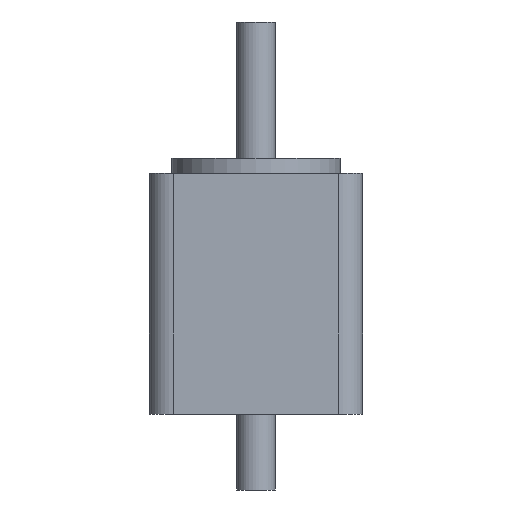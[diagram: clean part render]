
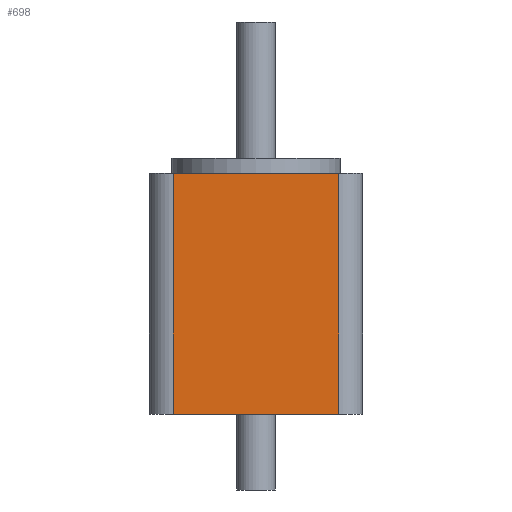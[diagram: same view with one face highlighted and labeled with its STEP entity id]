
A CAD part, front view. The second image highlights one B-rep face of the part: STEP entity #698.
In plain terms, the highlighted planar face has unit normal (0, -1, 0).
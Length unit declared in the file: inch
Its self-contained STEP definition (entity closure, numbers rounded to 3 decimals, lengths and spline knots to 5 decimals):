
#640=CARTESIAN_POINT('',(-0.425,-0.55,0.0));
#641=VERTEX_POINT('',#640);
#649=CARTESIAN_POINT('',(-0.425,-0.55,1.24));
#650=VERTEX_POINT('',#649);
#651=CARTESIAN_POINT('',(-0.425,-0.55,1.24));
#652=DIRECTION('',(0.0,0.0,-1.0));
#653=VECTOR('',#652,1.24);
#654=LINE('',#651,#653);
#655=EDGE_CURVE('',#650,#641,#654,.T.);
#668=CARTESIAN_POINT('',(-0.425,-0.55,1.24));
#669=DIRECTION('',(0.0,-1.0,0.0));
#670=DIRECTION('',(0.0,0.0,-1.0));
#671=AXIS2_PLACEMENT_3D('',#668,#669,#670);
#672=PLANE('',#671);
#673=CARTESIAN_POINT('',(0.425,-0.55,0.0));
#674=VERTEX_POINT('',#673);
#675=CARTESIAN_POINT('',(-0.425,-0.55,0.0));
#676=DIRECTION('',(1.0,0.0,0.0));
#677=VECTOR('',#676,0.85);
#678=LINE('',#675,#677);
#679=EDGE_CURVE('',#641,#674,#678,.T.);
#680=ORIENTED_EDGE('',*,*,#679,.T.);
#681=CARTESIAN_POINT('',(0.425,-0.55,1.24));
#682=VERTEX_POINT('',#681);
#683=CARTESIAN_POINT('',(0.425,-0.55,1.24));
#684=DIRECTION('',(0.0,0.0,-1.0));
#685=VECTOR('',#684,1.24);
#686=LINE('',#683,#685);
#687=EDGE_CURVE('',#682,#674,#686,.T.);
#688=ORIENTED_EDGE('',*,*,#687,.F.);
#689=CARTESIAN_POINT('',(-0.425,-0.55,1.24));
#690=DIRECTION('',(1.0,0.0,0.0));
#691=VECTOR('',#690,0.85);
#692=LINE('',#689,#691);
#693=EDGE_CURVE('',#650,#682,#692,.T.);
#694=ORIENTED_EDGE('',*,*,#693,.F.);
#695=ORIENTED_EDGE('',*,*,#655,.T.);
#696=EDGE_LOOP('',(#680,#688,#694,#695));
#697=FACE_OUTER_BOUND('',#696,.T.);
#698=ADVANCED_FACE('',(#697),#672,.T.);
